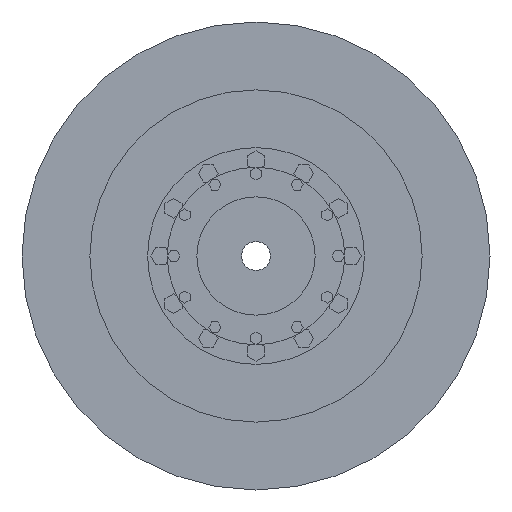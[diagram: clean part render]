
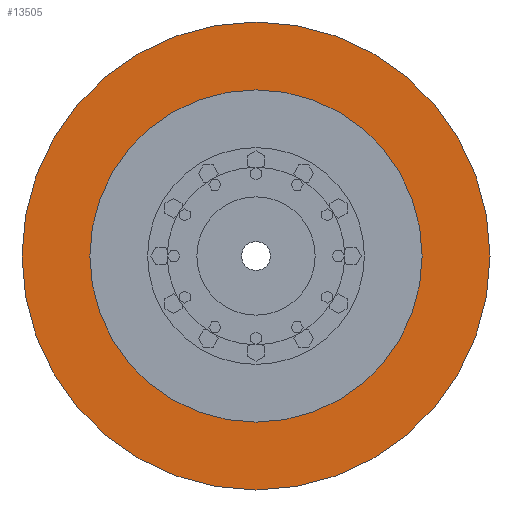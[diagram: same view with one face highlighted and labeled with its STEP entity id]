
A CAD part, left-side view. The second image highlights one B-rep face of the part: STEP entity #13505.
In plain terms, the highlighted planar face has unit normal (-1, 0, 0).
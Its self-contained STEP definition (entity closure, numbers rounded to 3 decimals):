
#13302=CARTESIAN_POINT('',(-49.,0.,0.));
#13303=DIRECTION('',(-1.,0.,0.));
#13304=DIRECTION('',(0.,1.,0.));
#13305=AXIS2_PLACEMENT_3D('',#13302,#13303,#13304);
#13307=CARTESIAN_POINT('',(-49.,0.,0.));
#13308=DIRECTION('',(1.,0.,0.));
#13309=DIRECTION('',(0.,1.,0.));
#13310=AXIS2_PLACEMENT_3D('',#13307,#13308,#13309);
#13312=CARTESIAN_POINT('',(-49.,0.,0.));
#13313=DIRECTION('',(1.,0.,0.));
#13314=DIRECTION('',(0.,1.,0.));
#13315=AXIS2_PLACEMENT_3D('',#13312,#13313,#13314);
#13325=CARTESIAN_POINT('',(-49.,0.,0.));
#13326=DIRECTION('',(-1.,0.,0.));
#13327=DIRECTION('',(0.,1.,0.));
#13328=AXIS2_PLACEMENT_3D('',#13325,#13326,#13327);
#13348=CARTESIAN_POINT('',(-49.,126.4,0.));
#13350=VERTEX_POINT('',#13348);
#13360=CARTESIAN_POINT('',(-49.,-126.4,0.));
#13362=VERTEX_POINT('',#13360);
#13365=CARTESIAN_POINT('',(-49.,178.,0.));
#13367=VERTEX_POINT('',#13365);
#13369=CARTESIAN_POINT('',(-49.,-178.,0.));
#13371=VERTEX_POINT('',#13369);
#13490=CARTESIAN_POINT('',(-49.,0.,0.));
#13491=DIRECTION('',(1.,0.,0.));
#13492=DIRECTION('',(0.,-1.,0.));
#13493=AXIS2_PLACEMENT_3D('',#13490,#13491,#13492);
#13494=PLANE('',#13493);
#13495=ORIENTED_EDGE('',*,*,#13483,.F.);
#13496=ORIENTED_EDGE('',*,*,#13472,.T.);
#13497=EDGE_LOOP('',(#13495,#13496));
#13498=FACE_OUTER_BOUND('',#13497,.F.);
#13500=ORIENTED_EDGE('',*,*,#13499,.F.);
#13502=ORIENTED_EDGE('',*,*,#13501,.T.);
#13503=EDGE_LOOP('',(#13500,#13502));
#13504=FACE_BOUND('',#13503,.F.);
#13505=ADVANCED_FACE('',(#13498,#13504),#13494,.F.);
#13306=CIRCLE('',#13305,178.);
#13311=CIRCLE('',#13310,178.);
#13316=CIRCLE('',#13315,126.4);
#13329=CIRCLE('',#13328,126.4);
#13472=EDGE_CURVE('',#13367,#13371,#13311,.T.);
#13483=EDGE_CURVE('',#13367,#13371,#13306,.T.);
#13499=EDGE_CURVE('',#13350,#13362,#13316,.T.);
#13501=EDGE_CURVE('',#13350,#13362,#13329,.T.);
